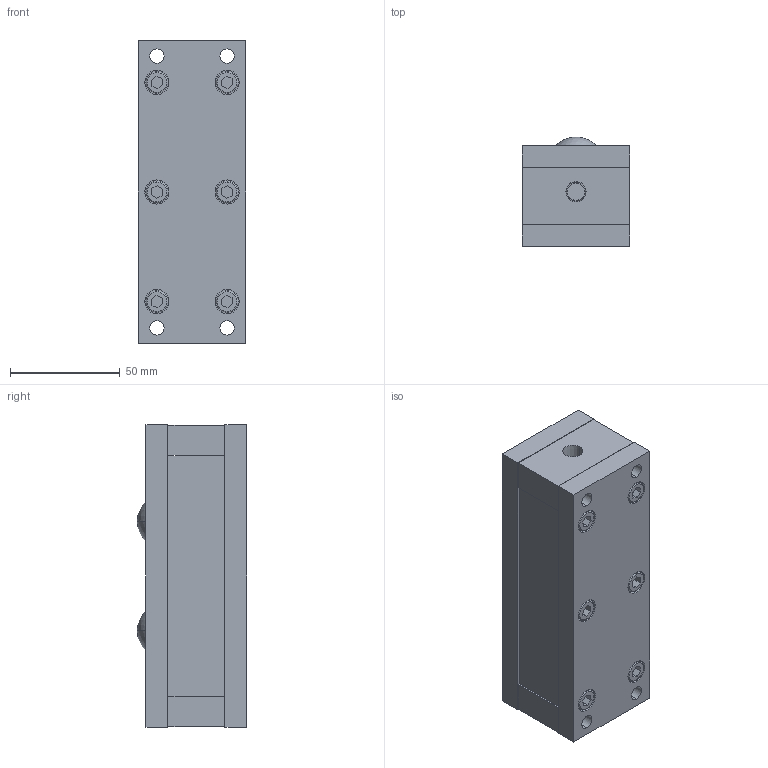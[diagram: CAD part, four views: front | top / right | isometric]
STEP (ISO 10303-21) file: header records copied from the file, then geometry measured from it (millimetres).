
FILE_DESCRIPTION (( 'STEP AP203' ), '1' );
FILE_NAME ('PVL55S-2.STEP', '2016-01-06T08:07:21', ( '' ), ( '' ), 'SwSTEP 2.0', 'SolidWorks 2013', '' );
FILE_SCHEMA (( 'CONFIG_CONTROL_DESIGN' ));
Length unit declared in the file: millimetre
Products named in the file (1): PVL55S-2
Bounding box: 49 x 50 x 138 mm (x, y, z)
Volume: 296061 mm3; surface area: 43076.1 mm2
Topology: 1 solids, 1 shells, 155 faces, 356 edges, 234 vertices
Faces by surface type: plane 87, cylinder 50, torus 12, sphere 4, cone 2
Entity records: 4507 total; most frequent: DIRECTION 804, CARTESIAN_POINT 746, ORIENTED_EDGE 712, EDGE_CURVE 356, AXIS2_PLACEMENT_3D 292, VERTEX_POINT 234, LINE 220, VECTOR 220
